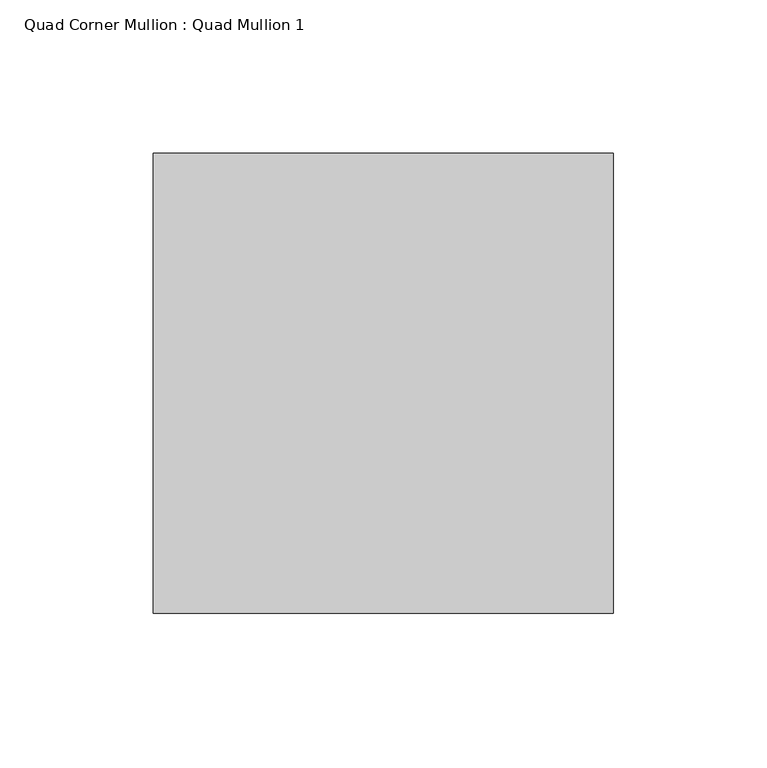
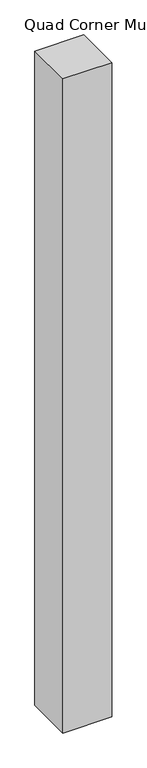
"""IFC4 building model written with IfcOpenShell, lengths in millimetres: member geometry, Quad Corner Mullion : Quad Mullion 1."""

from ifc_helpers import new_model, si_unit, frame, origin, place, context, project, spatial, polyline, outline, extrude, source, transform, mapped, element, save


def quad_corner_mullion_quad_mullion_1_ea4f9b91(model_context):
    return source(origin(), model_context, "Body", "SweptSolid", [
        extrude(outline(polyline([(75.0, -75.0), (-75.0, -75.0), (-75.0, 75.0), (75.0, 75.0), (75.0, -75.0)])), frame((0.0, 0.0, -2133.6), z_axis=(0.0, 0.0, 1.0), x_axis=(1.0, 0.0, 0.0)), (0.0, 0.0, 1.0), 2133.6),
    ])


if __name__ == "__main__":
    model = new_model("IFC4")
    model_context = context("Model", 3, world=origin())
    ifc_project = project(units=[si_unit("LENGTHUNIT", "METRE", prefix="MILLI")], contexts=[model_context])
    site = spatial("IfcSite", under=ifc_project)
    building = spatial("IfcBuilding", under=site)
    placement = place(None, origin())
    quad_corner_mullion_quad_mullion_1_shape = quad_corner_mullion_quad_mullion_1_ea4f9b91(model_context)
    element("IfcMember", 1, ObjectType="Quad Corner Mullion : Quad Mullion 1", at=placement, inside=building, context=model_context, shape_type="MappedRepresentation", body=[
        mapped(quad_corner_mullion_quad_mullion_1_shape, transform((0.0, 0.0, 0.0), x_axis=(1.0, 0.0, 0.0), y_axis=(0.0, 1.0, 0.0), z_axis=(0.0, 0.0, 1.0))),
    ])
    save(model, "model.ifc")
